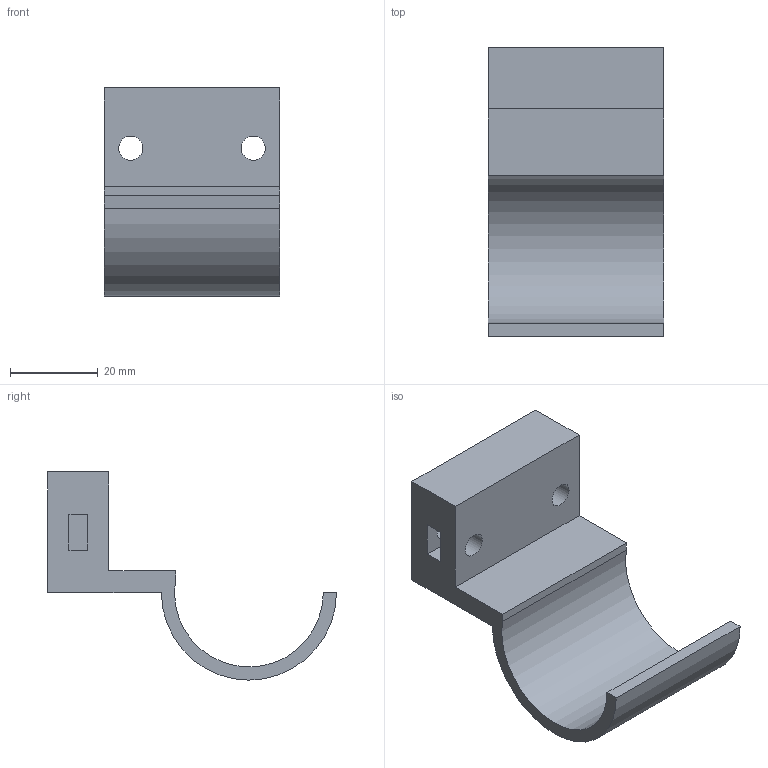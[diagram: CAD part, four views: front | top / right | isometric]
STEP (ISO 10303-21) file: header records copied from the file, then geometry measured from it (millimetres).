
FILE_DESCRIPTION(/* description */ (''),/* implementation_level */ '2;1');
FILE_NAME(/* name */ 'cane_holder v4.step',/* time_stamp */ '2026-04-10T14:26:15+02:00',/* author */ (''),/* organization */ (''),/* preprocessor_version */ 'ST-DEVELOPER v20.1',/* originating_system */ 'Autodesk Translation Framework v14.24.0.0',/* authorisation */ '');
FILE_SCHEMA (('AUTOMOTIVE_DESIGN { 1 0 10303 214 3 1 1 }'));
Length unit declared in the file: millimetre
Products named in the file (1): (Niezapisany)
Bounding box: 40 x 66 x 47.55 mm (x, y, z)
Volume: 24251.2 mm3; surface area: 11120.8 mm2
Topology: 1 solids, 1 shells, 25 faces, 63 edges, 42 vertices
Faces by surface type: plane 19, cylinder 6
Full cylindrical faces by diameter (mm): 5.5 x4
Entity records: 798 total; most frequent: CARTESIAN_POINT 131, DIRECTION 127, ORIENTED_EDGE 126, EDGE_CURVE 63, LINE 51, VECTOR 51, VERTEX_POINT 42, AXIS2_PLACEMENT_3D 38
